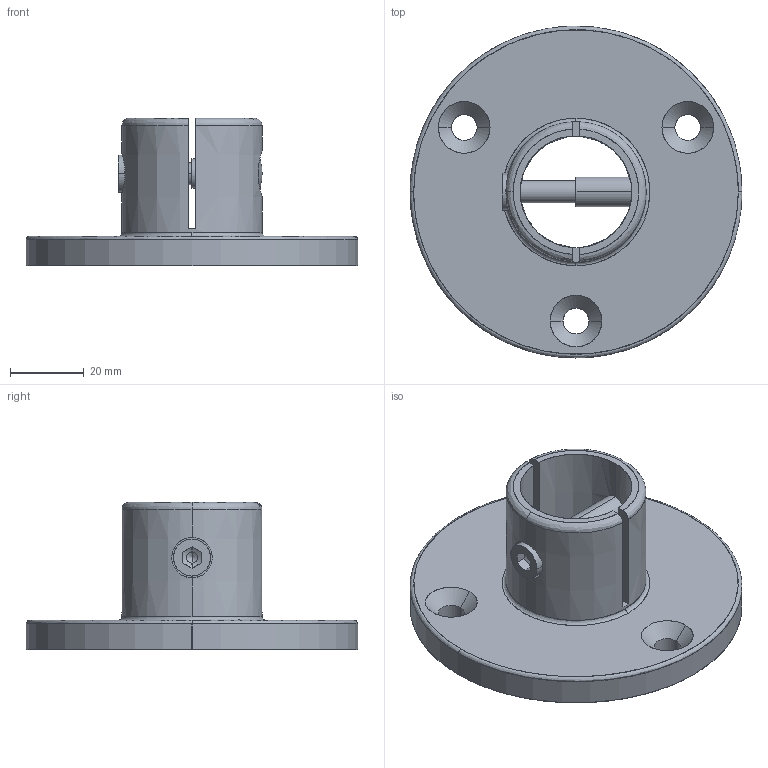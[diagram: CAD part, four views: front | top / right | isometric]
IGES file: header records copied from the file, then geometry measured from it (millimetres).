
Start section: SolidWorks IGES file using analytic representation for surfaces
Global section: file name: C:\Users\Gerard\OneDrive - Tecnodin, S.L\Escritorio\30 mm Verbinder im step. Format\31000410034.IGS; native system: SolidWorks 2016; preprocessor: SolidWorks 2016; author: Gerard; date: 240902.113729; units: millimetre
Bounding box: 90 x 90 x 40 mm (x, y, z)
Surface area: 23122.8 mm2 (no closed solid volume)
Topology: 0 solids, 0 shells, 82 faces, 1536 edges, 1531 vertices
Faces by surface type: revolution 50, bspline 32
